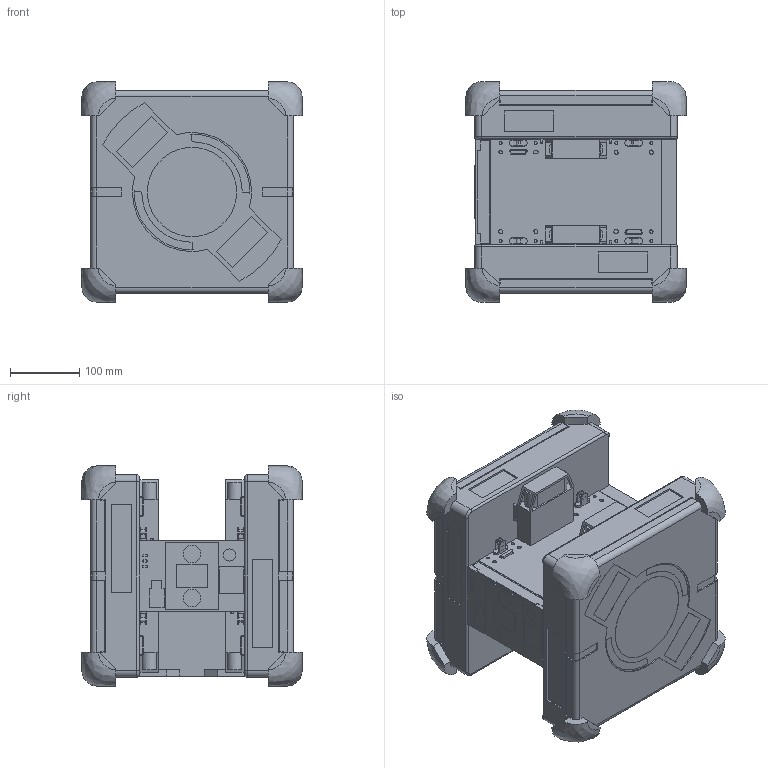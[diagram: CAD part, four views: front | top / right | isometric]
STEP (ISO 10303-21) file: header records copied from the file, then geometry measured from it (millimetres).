
FILE_DESCRIPTION((''),'2;1');
FILE_NAME('A9SP-1500-M950-1','2018-03-27T',('edaley'),('Mechanical Systems & Analysis Branch, NASA Ames Research Center'),'PRO/ENGINEER BY PARAMETRIC TECHNOLOGY CORPORATION, 2013230','PRO/ENGINEER BY PARAMETRIC TECHNOLOGY CORPORATION, 2013230','');
FILE_SCHEMA(('AUTOMOTIVE_DESIGN { 1 0 10303 214 1 1 1 1 }'));
Length unit declared in the file: inch
Products named in the file (1): A9SP-1500-M950-1
Bounding box: 317.5 x 317.5 x 317.5 mm (x, y, z)
Volume: 17930535.9 mm3; surface area: 760980.5 mm2
Topology: 1 solids, 1 shells, 1530 faces, 4177 edges, 2766 vertices
Faces by surface type: plane 1233, cylinder 265, cone 16, torus 8, bspline 8
Entity records: 49195 total; most frequent: CARTESIAN_POINT 9657, ORIENTED_EDGE 8354, DIRECTION 7719, EDGE_CURVE 4177, VECTOR 3501, LINE 3501, VERTEX_POINT 2766, AXIS2_PLACEMENT_3D 2109
